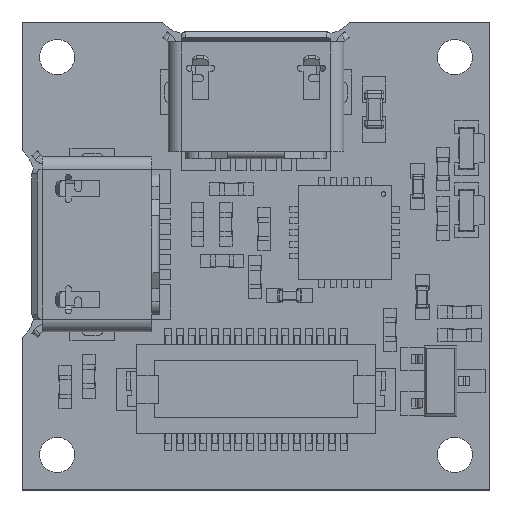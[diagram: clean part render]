
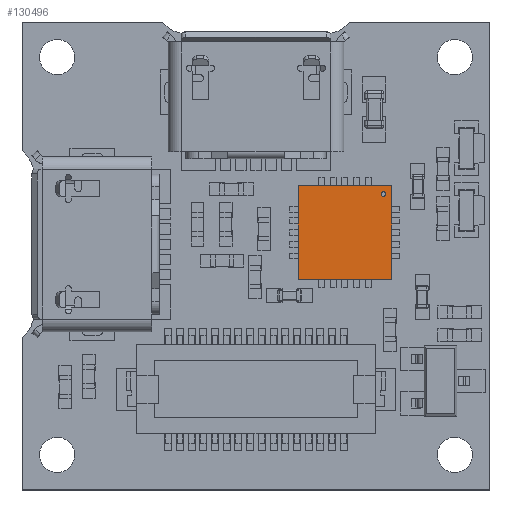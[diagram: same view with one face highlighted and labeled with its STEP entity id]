
A CAD part, top view. The second image highlights one B-rep face of the part: STEP entity #130496.
In plain terms, the highlighted planar face has unit normal (0, 0, 1).
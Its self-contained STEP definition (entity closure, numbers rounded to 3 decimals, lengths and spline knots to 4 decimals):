
#130496 = ADVANCED_FACE('',(#130497,#130616),#130511,.F.);
#130497 = FACE_BOUND('',#130498,.F.);
#130498 = EDGE_LOOP('',(#130499,#130534,#130562,#130590));
#130499 = ORIENTED_EDGE('',*,*,#130500,.T.);
#130500 = EDGE_CURVE('',#130501,#130503,#130505,.T.);
#130501 = VERTEX_POINT('',#130502);
#130502 = CARTESIAN_POINT('',(21.8,19.,1.45));
#130503 = VERTEX_POINT('',#130504);
#130504 = CARTESIAN_POINT('',(21.8,23.,1.45));
#130505 = SURFACE_CURVE('',#130506,(#130510,#130522),.PCURVE_S1.);
#130506 = LINE('',#130507,#130508);
#130507 = CARTESIAN_POINT('',(21.8,19.,1.45));
#130508 = VECTOR('',#130509,1.);
#130509 = DIRECTION('',(0.,1.,0.));
#130510 = PCURVE('',#130511,#130516);
#130511 = PLANE('',#130512);
#130512 = AXIS2_PLACEMENT_3D('',#130513,#130514,#130515);
#130513 = CARTESIAN_POINT('',(23.8,21.,1.45));
#130514 = DIRECTION('',(0.,-0.,-1.));
#130515 = DIRECTION('',(0.,-1.,0.));
#130516 = DEFINITIONAL_REPRESENTATION('',(#130517),#130521);
#130517 = LINE('',#130518,#130519);
#130518 = CARTESIAN_POINT('',(2.,2.));
#130519 = VECTOR('',#130520,1.);
#130520 = DIRECTION('',(-1.,0.));
#130521 = ( GEOMETRIC_REPRESENTATION_CONTEXT(2) 
PARAMETRIC_REPRESENTATION_CONTEXT() REPRESENTATION_CONTEXT('2D SPACE',''
  ) );
#130522 = PCURVE('',#130523,#130528);
#130523 = PLANE('',#130524);
#130524 = AXIS2_PLACEMENT_3D('',#130525,#130526,#130527);
#130525 = CARTESIAN_POINT('',(21.8,21.,1.0238));
#130526 = DIRECTION('',(-1.,0.,0.));
#130527 = DIRECTION('',(0.,0.,1.));
#130528 = DEFINITIONAL_REPRESENTATION('',(#130529),#130533);
#130529 = LINE('',#130530,#130531);
#130530 = CARTESIAN_POINT('',(0.426,-2.));
#130531 = VECTOR('',#130532,1.);
#130532 = DIRECTION('',(0.,1.));
#130533 = ( GEOMETRIC_REPRESENTATION_CONTEXT(2) 
PARAMETRIC_REPRESENTATION_CONTEXT() REPRESENTATION_CONTEXT('2D SPACE',''
  ) );
#130534 = ORIENTED_EDGE('',*,*,#130535,.T.);
#130535 = EDGE_CURVE('',#130503,#130536,#130538,.T.);
#130536 = VERTEX_POINT('',#130537);
#130537 = CARTESIAN_POINT('',(25.8,23.,1.45));
#130538 = SURFACE_CURVE('',#130539,(#130543,#130550),.PCURVE_S1.);
#130539 = LINE('',#130540,#130541);
#130540 = CARTESIAN_POINT('',(21.8,23.,1.45));
#130541 = VECTOR('',#130542,1.);
#130542 = DIRECTION('',(1.,0.,0.));
#130543 = PCURVE('',#130511,#130544);
#130544 = DEFINITIONAL_REPRESENTATION('',(#130545),#130549);
#130545 = LINE('',#130546,#130547);
#130546 = CARTESIAN_POINT('',(-2.,2.));
#130547 = VECTOR('',#130548,1.);
#130548 = DIRECTION('',(0.,-1.));
#130549 = ( GEOMETRIC_REPRESENTATION_CONTEXT(2) 
PARAMETRIC_REPRESENTATION_CONTEXT() REPRESENTATION_CONTEXT('2D SPACE',''
  ) );
#130550 = PCURVE('',#130551,#130556);
#130551 = PLANE('',#130552);
#130552 = AXIS2_PLACEMENT_3D('',#130553,#130554,#130555);
#130553 = CARTESIAN_POINT('',(23.8,23.,1.0238));
#130554 = DIRECTION('',(0.,1.,0.));
#130555 = DIRECTION('',(0.,0.,1.));
#130556 = DEFINITIONAL_REPRESENTATION('',(#130557),#130561);
#130557 = LINE('',#130558,#130559);
#130558 = CARTESIAN_POINT('',(0.426,-2.));
#130559 = VECTOR('',#130560,1.);
#130560 = DIRECTION('',(0.,1.));
#130561 = ( GEOMETRIC_REPRESENTATION_CONTEXT(2) 
PARAMETRIC_REPRESENTATION_CONTEXT() REPRESENTATION_CONTEXT('2D SPACE',''
  ) );
#130562 = ORIENTED_EDGE('',*,*,#130563,.T.);
#130563 = EDGE_CURVE('',#130536,#130564,#130566,.T.);
#130564 = VERTEX_POINT('',#130565);
#130565 = CARTESIAN_POINT('',(25.8,19.,1.45));
#130566 = SURFACE_CURVE('',#130567,(#130571,#130578),.PCURVE_S1.);
#130567 = LINE('',#130568,#130569);
#130568 = CARTESIAN_POINT('',(25.8,23.,1.45));
#130569 = VECTOR('',#130570,1.);
#130570 = DIRECTION('',(0.,-1.,0.));
#130571 = PCURVE('',#130511,#130572);
#130572 = DEFINITIONAL_REPRESENTATION('',(#130573),#130577);
#130573 = LINE('',#130574,#130575);
#130574 = CARTESIAN_POINT('',(-2.,-2.));
#130575 = VECTOR('',#130576,1.);
#130576 = DIRECTION('',(1.,0.));
#130577 = ( GEOMETRIC_REPRESENTATION_CONTEXT(2) 
PARAMETRIC_REPRESENTATION_CONTEXT() REPRESENTATION_CONTEXT('2D SPACE',''
  ) );
#130578 = PCURVE('',#130579,#130584);
#130579 = PLANE('',#130580);
#130580 = AXIS2_PLACEMENT_3D('',#130581,#130582,#130583);
#130581 = CARTESIAN_POINT('',(25.8,21.,1.0238));
#130582 = DIRECTION('',(1.,0.,0.));
#130583 = DIRECTION('',(0.,-1.,0.));
#130584 = DEFINITIONAL_REPRESENTATION('',(#130585),#130589);
#130585 = LINE('',#130586,#130587);
#130586 = CARTESIAN_POINT('',(-2.,-0.426));
#130587 = VECTOR('',#130588,1.);
#130588 = DIRECTION('',(1.,0.));
#130589 = ( GEOMETRIC_REPRESENTATION_CONTEXT(2) 
PARAMETRIC_REPRESENTATION_CONTEXT() REPRESENTATION_CONTEXT('2D SPACE',''
  ) );
#130590 = ORIENTED_EDGE('',*,*,#130591,.T.);
#130591 = EDGE_CURVE('',#130564,#130501,#130592,.T.);
#130592 = SURFACE_CURVE('',#130593,(#130597,#130604),.PCURVE_S1.);
#130593 = LINE('',#130594,#130595);
#130594 = CARTESIAN_POINT('',(25.8,19.,1.45));
#130595 = VECTOR('',#130596,1.);
#130596 = DIRECTION('',(-1.,0.,0.));
#130597 = PCURVE('',#130511,#130598);
#130598 = DEFINITIONAL_REPRESENTATION('',(#130599),#130603);
#130599 = LINE('',#130600,#130601);
#130600 = CARTESIAN_POINT('',(2.,-2.));
#130601 = VECTOR('',#130602,1.);
#130602 = DIRECTION('',(0.,1.));
#130603 = ( GEOMETRIC_REPRESENTATION_CONTEXT(2) 
PARAMETRIC_REPRESENTATION_CONTEXT() REPRESENTATION_CONTEXT('2D SPACE',''
  ) );
#130604 = PCURVE('',#130605,#130610);
#130605 = PLANE('',#130606);
#130606 = AXIS2_PLACEMENT_3D('',#130607,#130608,#130609);
#130607 = CARTESIAN_POINT('',(23.8,19.,1.0238));
#130608 = DIRECTION('',(0.,-1.,-0.));
#130609 = DIRECTION('',(0.,0.,-1.));
#130610 = DEFINITIONAL_REPRESENTATION('',(#130611),#130615);
#130611 = LINE('',#130612,#130613);
#130612 = CARTESIAN_POINT('',(-0.426,2.));
#130613 = VECTOR('',#130614,1.);
#130614 = DIRECTION('',(0.,-1.));
#130615 = ( GEOMETRIC_REPRESENTATION_CONTEXT(2) 
PARAMETRIC_REPRESENTATION_CONTEXT() REPRESENTATION_CONTEXT('2D SPACE',''
  ) );
#130616 = FACE_BOUND('',#130617,.F.);
#130617 = EDGE_LOOP('',(#130618));
#130618 = ORIENTED_EDGE('',*,*,#130619,.T.);
#130619 = EDGE_CURVE('',#130620,#130620,#130622,.T.);
#130620 = VERTEX_POINT('',#130621);
#130621 = CARTESIAN_POINT('',(25.4464,22.7464,1.45));
#130622 = SURFACE_CURVE('',#130623,(#130628,#130639),.PCURVE_S1.);
#130623 = CIRCLE('',#130624,0.1);
#130624 = AXIS2_PLACEMENT_3D('',#130625,#130626,#130627);
#130625 = CARTESIAN_POINT('',(25.4464,22.6464,1.45));
#130626 = DIRECTION('',(0.,-0.,1.));
#130627 = DIRECTION('',(0.,1.,0.));
#130628 = PCURVE('',#130511,#130629);
#130629 = DEFINITIONAL_REPRESENTATION('',(#130630),#130638);
#130630 = ( BOUNDED_CURVE() B_SPLINE_CURVE(2,(#130631,#130632,#130633,
    #130634,#130635,#130636,#130637),.UNSPECIFIED.,.T.,.F.) 
B_SPLINE_CURVE_WITH_KNOTS((1,2,2,2,2,1),(-2.0944,0.,
    2.0944,4.1888,6.2832,8.3776),
.UNSPECIFIED.) CURVE() GEOMETRIC_REPRESENTATION_ITEM() 
RATIONAL_B_SPLINE_CURVE((1.,0.5,1.,0.5,1.,0.5,1.)) REPRESENTATION_ITEM(
  '') );
#130631 = CARTESIAN_POINT('',(-1.746,-1.646));
#130632 = CARTESIAN_POINT('',(-1.746,-1.473));
#130633 = CARTESIAN_POINT('',(-1.596,-1.56));
#130634 = CARTESIAN_POINT('',(-1.446,-1.646));
#130635 = CARTESIAN_POINT('',(-1.596,-1.733));
#130636 = CARTESIAN_POINT('',(-1.746,-1.82));
#130637 = CARTESIAN_POINT('',(-1.746,-1.646));
#130638 = ( GEOMETRIC_REPRESENTATION_CONTEXT(2) 
PARAMETRIC_REPRESENTATION_CONTEXT() REPRESENTATION_CONTEXT('2D SPACE',''
  ) );
#130639 = PCURVE('',#130640,#130645);
#130640 = PLANE('',#130641);
#130641 = AXIS2_PLACEMENT_3D('',#130642,#130643,#130644);
#130642 = CARTESIAN_POINT('',(23.8,21.,1.45));
#130643 = DIRECTION('',(0.,-0.,-1.));
#130644 = DIRECTION('',(0.,-1.,0.));
#130645 = DEFINITIONAL_REPRESENTATION('',(#130646),#130654);
#130646 = ( BOUNDED_CURVE() B_SPLINE_CURVE(2,(#130647,#130648,#130649,
    #130650,#130651,#130652,#130653),.UNSPECIFIED.,.T.,.F.) 
B_SPLINE_CURVE_WITH_KNOTS((1,2,2,2,2,1),(-2.0944,0.,
    2.0944,4.1888,6.2832,8.3776),
.UNSPECIFIED.) CURVE() GEOMETRIC_REPRESENTATION_ITEM() 
RATIONAL_B_SPLINE_CURVE((1.,0.5,1.,0.5,1.,0.5,1.)) REPRESENTATION_ITEM(
  '') );
#130647 = CARTESIAN_POINT('',(-1.746,-1.646));
#130648 = CARTESIAN_POINT('',(-1.746,-1.473));
#130649 = CARTESIAN_POINT('',(-1.596,-1.56));
#130650 = CARTESIAN_POINT('',(-1.446,-1.646));
#130651 = CARTESIAN_POINT('',(-1.596,-1.733));
#130652 = CARTESIAN_POINT('',(-1.746,-1.82));
#130653 = CARTESIAN_POINT('',(-1.746,-1.646));
#130654 = ( GEOMETRIC_REPRESENTATION_CONTEXT(2) 
PARAMETRIC_REPRESENTATION_CONTEXT() REPRESENTATION_CONTEXT('2D SPACE',''
  ) );
